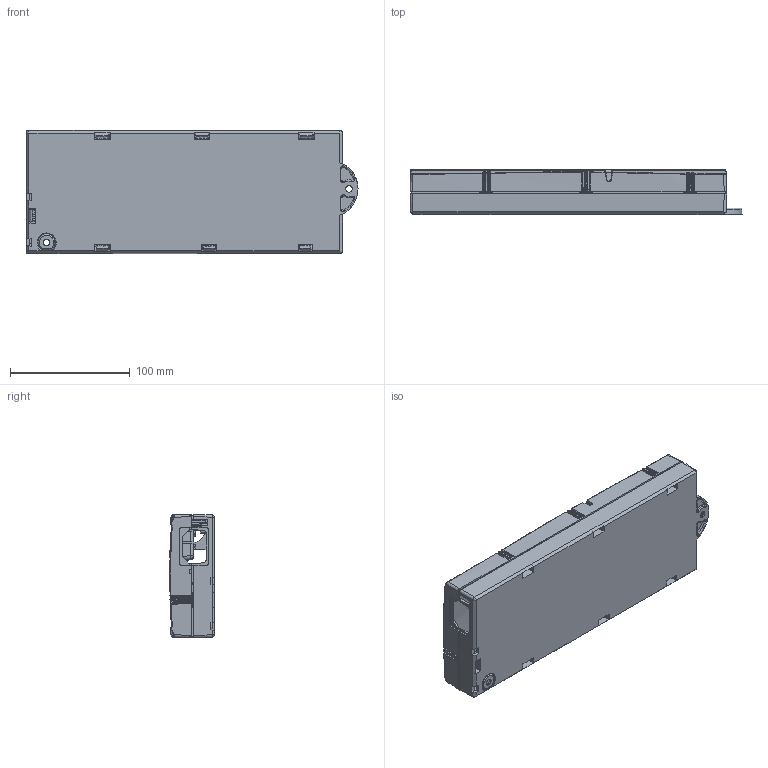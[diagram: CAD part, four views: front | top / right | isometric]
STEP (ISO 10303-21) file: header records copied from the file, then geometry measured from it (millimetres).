
FILE_DESCRIPTION (( 'STEP AP214' ), '1' );
FILE_NAME ('Compact Steuerung.STEP', '2017-11-28T12:30:19', ( '' ), ( '' ), 'SwSTEP 2.0', 'SolidWorks 2017', '' );
FILE_SCHEMA (( 'AUTOMOTIVE_DESIGN' ));
Length unit declared in the file: millimetre
Products named in the file (3): Compact Steuerung; Compact_UT_2009_R5_molex^Compact Steuerungsgehäuse; COMPACT_OT_2009_R5_VISMOLDES_03-06-2009^Compact Steuerungsgehäuse
Assembly tree (2 placements, depth 2):
  Compact Steuerung
    COMPACT_OT_2009_R5_VISMOLDES_03-06-2009^Compact Steuerungsgehäuse
    Compact_UT_2009_R5_molex^Compact Steuerungsgehäuse
Bounding box: 276.71 x 37.49 x 102.91 mm (x, y, z)
Volume: 83867.9 mm3; surface area: 181902.2 mm2
Topology: 9 solids, 18 shells, 1910 faces, 7946 edges, 6024 vertices
Faces by surface type: plane 1255, bspline 485, cone 102, cylinder 56, sphere 12
Entity records: 179644 total; most frequent: CARTESIAN_POINT 125911, ORIENTED_EDGE 15661, EDGE_CURVE 7919, VERTEX_POINT 6018, B_SPLINE_CURVE_WITH_KNOTS 5263, DIRECTION 5237, VECTOR 2129, LINE 2129
